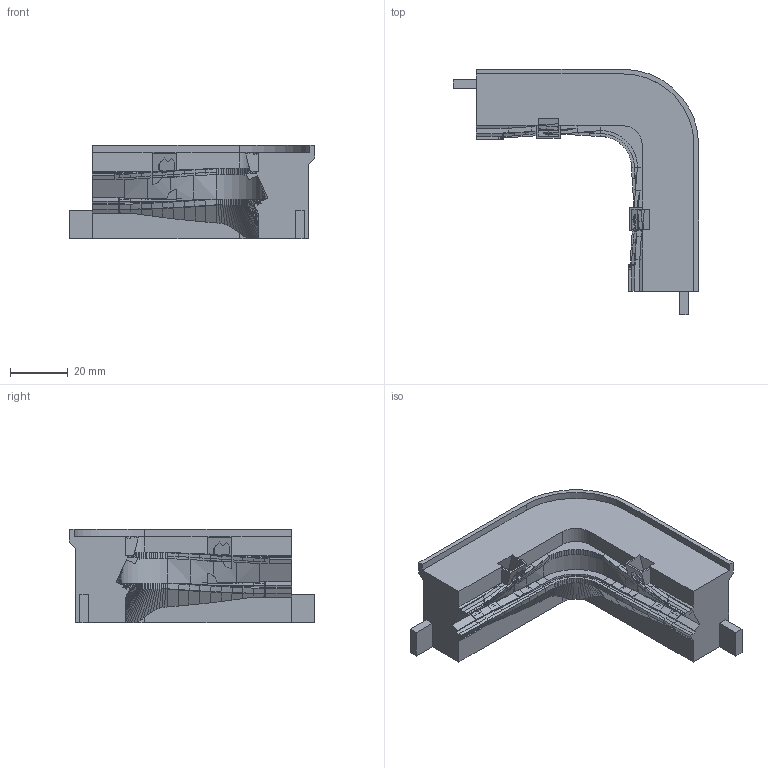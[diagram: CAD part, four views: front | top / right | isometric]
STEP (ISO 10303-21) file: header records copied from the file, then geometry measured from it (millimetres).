
FILE_DESCRIPTION(('Open CASCADE Model'),'2;1');
FILE_NAME('SOLID','2026-10-21T18:51:46',('Author'),('Open CASCADE'), 'Open CASCADE STEP processor 8.0','build123d','Unknown');
FILE_SCHEMA(('AUTOMOTIVE_DESIGN { 1 0 10303 214 1 1 1 1 }'));
Products named in the file (1): SOLID
Bounding box: 85.1 x 85.1 x 32.5 mm (x, y, z)
Volume: 68408.9 mm3; surface area: 16544.6 mm2
Topology: 1 solids, 1 shells, 787 faces, 2123 edges, 1332 vertices
Faces by surface type: bspline 450, plane 324, cylinder 12, cone 1
Entity records: 53810 total; most frequent: CARTESIAN_POINT 17803, DIRECTION 4264, ORIENTED_EDGE 4246, PCURVE 4246, DEFINITIONAL_REPRESENTATION 4246, LINE 3532, VECTOR 3532, B_SPLINE_CURVE_WITH_KNOTS 2793
